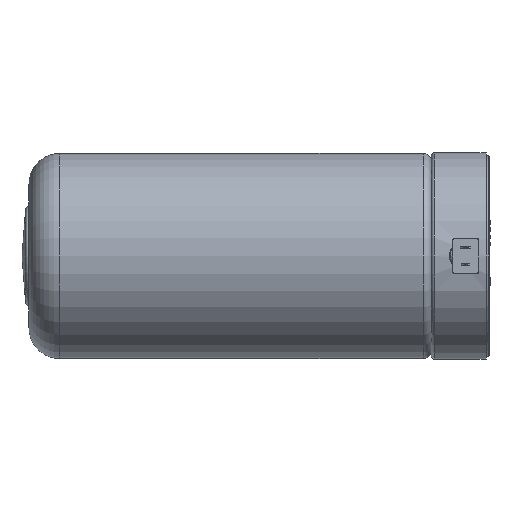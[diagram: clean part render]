
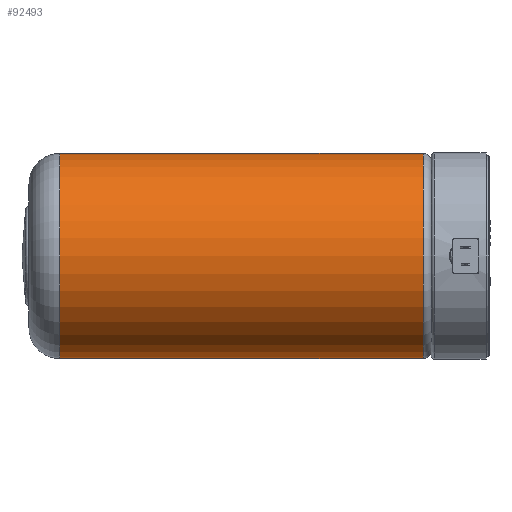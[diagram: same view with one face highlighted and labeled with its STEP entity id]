
A CAD part, left-side view. The second image highlights one B-rep face of the part: STEP entity #92493.
In plain terms, the highlighted cylindrical face has radius 75 mm (diameter 150 mm), a full revolution.
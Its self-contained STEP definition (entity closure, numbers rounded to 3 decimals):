
#9797=FACE_OUTER_BOUND('',#15214,.T.);
#15214=EDGE_LOOP('',(#66047,#66048,#66049,#66050,#66051,#66052));
#20719=CIRCLE('',#99473,75.);
#20720=CIRCLE('',#99474,75.);
#20735=CIRCLE('',#99497,75.);
#20736=CIRCLE('',#99498,75.);
#23832=LINE('',#134829,#32377);
#32377=VECTOR('',#109575,75.);
#41051=VERTEX_POINT('',#134787);
#41052=VERTEX_POINT('',#134788);
#41064=VERTEX_POINT('',#134826);
#41065=VERTEX_POINT('',#134827);
#50527=EDGE_CURVE('',#41051,#41052,#20719,.T.);
#50528=EDGE_CURVE('',#41052,#41051,#20720,.T.);
#50545=EDGE_CURVE('',#41064,#41065,#20735,.T.);
#50546=EDGE_CURVE('',#41064,#41051,#23832,.T.);
#50547=EDGE_CURVE('',#41065,#41064,#20736,.T.);
#66047=ORIENTED_EDGE('',*,*,#50545,.F.);
#66048=ORIENTED_EDGE('',*,*,#50546,.T.);
#66049=ORIENTED_EDGE('',*,*,#50527,.T.);
#66050=ORIENTED_EDGE('',*,*,#50528,.T.);
#66051=ORIENTED_EDGE('',*,*,#50546,.F.);
#66052=ORIENTED_EDGE('',*,*,#50547,.F.);
#90841=CYLINDRICAL_SURFACE('',#99496,75.);
#92493=ADVANCED_FACE('',(#9797),#90841,.T.);
#99473=AXIS2_PLACEMENT_3D('',#134789,#109523,#109524);
#99474=AXIS2_PLACEMENT_3D('',#134790,#109525,#109526);
#99496=AXIS2_PLACEMENT_3D('',#134825,#109571,#109572);
#99497=AXIS2_PLACEMENT_3D('',#134828,#109573,#109574);
#99498=AXIS2_PLACEMENT_3D('',#134830,#109576,#109577);
#109523=DIRECTION('center_axis',(1.,0.,0.));
#109524=DIRECTION('ref_axis',(0.,0.,-1.));
#109525=DIRECTION('center_axis',(1.,0.,0.));
#109526=DIRECTION('ref_axis',(0.,0.,-1.));
#109571=DIRECTION('center_axis',(1.,0.,0.));
#109572=DIRECTION('ref_axis',(0.,1.,0.));
#109573=DIRECTION('center_axis',(1.,0.,0.));
#109574=DIRECTION('ref_axis',(0.,0.,-1.));
#109575=DIRECTION('',(-1.,0.,0.));
#109576=DIRECTION('center_axis',(1.,0.,0.));
#109577=DIRECTION('ref_axis',(0.,0.,-1.));
#134787=CARTESIAN_POINT('',(22.5,-75.,0.));
#134788=CARTESIAN_POINT('',(22.5,0.,75.));
#134789=CARTESIAN_POINT('Origin',(22.5,0.,0.));
#134790=CARTESIAN_POINT('Origin',(22.5,0.,0.));
#134825=CARTESIAN_POINT('Origin',(155.25,0.,0.));
#134826=CARTESIAN_POINT('',(288.,-75.,0.));
#134827=CARTESIAN_POINT('',(288.,0.,75.));
#134828=CARTESIAN_POINT('Origin',(288.,0.,0.));
#134829=CARTESIAN_POINT('',(155.25,-75.,0.));
#134830=CARTESIAN_POINT('Origin',(288.,0.,0.));
